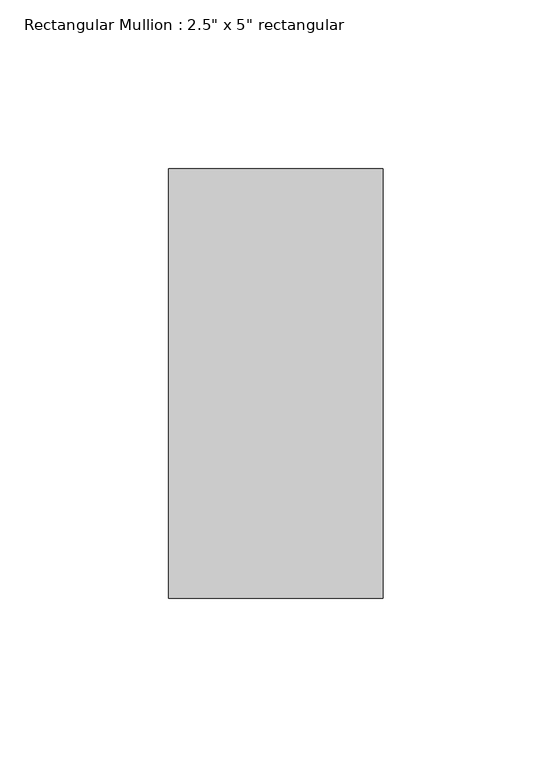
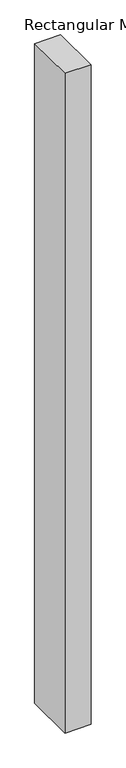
"""IFC4 building model written with IfcOpenShell, lengths in millimetres: member geometry."""

import ifcopenshell
import ifcopenshell.guid

model = None  # the IFC model being written
_history = None  # IfcOwnerHistory: only IFC2X3 demands one
_inside = {}  # id of a spatial element -> (the spatial element, [elements in it])
_under = {}  # id of a project, library or spatial element -> (it, [spatial elements below it])
_declared = {}  # id of a project -> (the project, [libraries it declares])
_typed = {}  # id of a type object -> (the type object, [elements of that type])
_made_of = {}  # id of a material, layer set ... -> (it, [elements and type objects made of it])


def new_model(schema):
    """Start an empty IFC model of exactly this schema.

    Asked for "IFC4X3", IfcOpenShell would pick the latest addendum, in which some entities
    have other attributes; the version numbers below select the first issue.
    IFC2X3 requires an IfcOwnerHistory on every rooted entity: one is made here for all.
    """
    global model, _history
    if schema == "IFC4X3":
        model = ifcopenshell.file(schema_version=(4, 3, 0, 0))
    else:
        model = ifcopenshell.file(schema=schema)
    _inside.clear()
    _under.clear()
    _declared.clear()
    _typed.clear()
    _made_of.clear()
    _history = None
    if model.schema == "IFC2X3":
        org = make("IfcOrganization", Name="unknown")
        user = make(
            "IfcPersonAndOrganization",
            ThePerson=make("IfcPerson", FamilyName="unknown"),
            TheOrganization=org,
        )
        app = make(
            "IfcApplication",
            ApplicationDeveloper=org,
            Version="unknown",
            ApplicationFullName="unknown",
            ApplicationIdentifier="unknown",
        )
        _history = make(
            "IfcOwnerHistory",
            OwningUser=user,
            OwningApplication=app,
            ChangeAction="ADDED",
            CreationDate=0,
        )
    return model


def make(cls, **values):
    """One entity of the class cls with the attributes given. An attribute that is None is left unset."""
    return model.create_entity(
        cls, **{name: value for name, value in values.items() if value is not None}
    )


def rooted(cls, **values):
    """An entity with a GlobalId (a new one), such as an element, a storey or a relation."""
    return make(cls, GlobalId=ifcopenshell.guid.new(), OwnerHistory=_history, **values)


def si_unit(unit_type, name, prefix=None):
    """IfcSIUnit, for example si_unit("LENGTHUNIT", "METRE", prefix="MILLI")."""
    return make("IfcSIUnit", UnitType=unit_type, Prefix=prefix, Name=name)


def assignment(units):
    """IfcUnitAssignment: the units of a project."""
    return None if units is None else make("IfcUnitAssignment", Units=units)


def point(xyz):
    """IfcCartesianPoint."""
    return None if xyz is None else make("IfcCartesianPoint", Coordinates=xyz)


def direction(xyz):
    """IfcDirection."""
    return None if xyz is None else make("IfcDirection", DirectionRatios=xyz)


def frame(location, z_axis=None, x_axis=None):
    """IfcAxis2Placement3D, a coordinate frame: its origin and axes. An axis left out is left unset."""
    return make(
        "IfcAxis2Placement3D",
        Location=point(location),
        Axis=direction(z_axis),
        RefDirection=direction(x_axis),
    )


def origin():
    """The frame at (0, 0, 0) with its axes left unset."""
    return frame((0.0, 0.0, 0.0))


def place(relative_to, where):
    """IfcLocalPlacement: puts the frame where relative to a parent placement (None: the world)."""
    return make(
        "IfcLocalPlacement", PlacementRelTo=relative_to, RelativePlacement=where
    )


def context(
    kind, dimensions, precision=None, world=None, true_north=None, identifier=None
):
    """IfcGeometricRepresentationContext, for example the 3D "Model" context."""
    return make(
        "IfcGeometricRepresentationContext",
        ContextIdentifier=identifier,
        ContextType=kind,
        CoordinateSpaceDimension=dimensions,
        Precision=precision,
        WorldCoordinateSystem=world,
        TrueNorth=true_north,
    )


def project(units=None, contexts=None):
    """IfcProject with its units and contexts."""
    return rooted(
        "IfcProject",
        Name="project",
        RepresentationContexts=contexts,
        UnitsInContext=assignment(units),
    )


def spatial(cls, under=None, at=None, **own):
    """A site, building, storey or space (cls), placed at a placement, below another one or the project."""
    s = rooted(cls, ObjectPlacement=at, **own)
    if under is not None:
        _under.setdefault(under.id(), (under, []))[1].append(s)
    return s


def polyline(points):
    """IfcPolyline through the points."""
    return make("IfcPolyline", Points=[point(p) for p in points])


def outline(outer, holes=None, kind="AREA"):
    """IfcArbitraryClosedProfileDef: a profile drawn as a closed curve; with holes, ...WithVoids."""
    if holes is None:
        return make("IfcArbitraryClosedProfileDef", ProfileType=kind, OuterCurve=outer)
    return make(
        "IfcArbitraryProfileDefWithVoids",
        ProfileType=kind,
        OuterCurve=outer,
        InnerCurves=holes,
    )


def extrude(swept, where, along, depth):
    """IfcExtrudedAreaSolid: the profile swept, set in the frame where, extruded along a direction by depth."""
    return make(
        "IfcExtrudedAreaSolid",
        SweptArea=swept,
        Position=where,
        ExtrudedDirection=direction(along),
        Depth=depth,
    )


def shape(context_of_items, identifier, shape_type, items):
    """IfcShapeRepresentation: the items that make up one representation, for example the "Body"."""
    return make(
        "IfcShapeRepresentation",
        ContextOfItems=context_of_items,
        RepresentationIdentifier=identifier,
        RepresentationType=shape_type,
        Items=items,
    )


def source(mapping_origin, context_of_items, identifier, shape_type, items):
    """IfcRepresentationMap: a shape defined once, which mapped items show again and again."""
    return make(
        "IfcRepresentationMap",
        MappingOrigin=mapping_origin,
        MappedRepresentation=shape(context_of_items, identifier, shape_type, items),
    )


def transform(
    local_origin,
    x_axis=None,
    y_axis=None,
    z_axis=None,
    scale=None,
    scale2=None,
    scale3=None,
    uniform=True,
):
    """IfcCartesianTransformationOperator3D, or its non-uniform kind. x_axis, y_axis, z_axis: its Axis1, 2, 3."""
    if uniform:
        return make(
            "IfcCartesianTransformationOperator3D",
            Axis1=direction(x_axis),
            Axis2=direction(y_axis),
            LocalOrigin=point(local_origin),
            Scale=scale,
            Axis3=direction(z_axis),
        )
    return make(
        "IfcCartesianTransformationOperator3DnonUniform",
        Axis1=direction(x_axis),
        Axis2=direction(y_axis),
        LocalOrigin=point(local_origin),
        Scale=scale,
        Axis3=direction(z_axis),
        Scale2=scale2,
        Scale3=scale3,
    )


def mapped(mapping_source, mapping_target):
    """IfcMappedItem: shows the shape of a source again, moved by a transform."""
    return make(
        "IfcMappedItem", MappingSource=mapping_source, MappingTarget=mapping_target
    )


def made_of(thing, what):
    """Note that an element or type object is made of a material, layer set ...; save() writes the relation."""
    if what is not None:
        _made_of.setdefault(what.id(), (what, []))[1].append(thing)
    return thing


def element(
    cls,
    number,
    at=None,
    inside=None,
    cuts=None,
    type_object=None,
    material=None,
    context=None,
    identifier="Body",
    shape_type=None,
    held_by="IfcProductDefinitionShape",
    body=None,
    shapes=None,
    **own,
):
    """One element of the class cls, such as IfcWall. Its Tag is "e" and its number.

    at: its placement. inside: the storey or other place that contains it. cuts: it is an
    opening in that element (IfcRelVoidsElement). A single representation is given by context,
    identifier, shape_type and body (its items); several are given by shapes. held_by: the class
    of the entity that holds the representations. save() writes the other relations.
    """
    e = rooted(cls, Tag="e%d" % number, ObjectPlacement=at, **own)
    if body is not None:
        shapes = [shape(context, identifier, shape_type, body)]
    if shapes is not None:
        e.Representation = make(held_by, Representations=shapes)
    if inside is not None:
        _inside.setdefault(inside.id(), (inside, []))[1].append(e)
    if cuts is not None:
        rooted(
            "IfcRelVoidsElement", RelatingBuildingElement=cuts, RelatedOpeningElement=e
        )
    if type_object is not None:
        _typed.setdefault(type_object.id(), (type_object, []))[1].append(e)
    return made_of(e, material)


def aggregate(whole, parts):
    """IfcRelAggregates: a whole, such as a stair, and the parts it consists of."""
    return rooted("IfcRelAggregates", RelatingObject=whole, RelatedObjects=parts)


def save(model, path):
    """Write the relations noted so far, then the file.

    IfcRelAggregates (storeys below a building ...), IfcRelContainedInSpatialStructure (elements
    in a storey), IfcRelDefinesByType, IfcRelAssociatesMaterial and IfcRelDeclares: one each for
    every whole, place, type object, material and project.
    """
    for whole, parts in _under.values():
        aggregate(whole, parts)
    for where, things in _inside.values():
        rooted(
            "IfcRelContainedInSpatialStructure",
            RelatedElements=things,
            RelatingStructure=where,
        )
    for kind, things in _typed.values():
        rooted("IfcRelDefinesByType", RelatedObjects=things, RelatingType=kind)
    for what, things in _made_of.values():
        rooted("IfcRelAssociatesMaterial", RelatedObjects=things, RelatingMaterial=what)
    for by, libraries in _declared.values():
        rooted("IfcRelDeclares", RelatingContext=by, RelatedDefinitions=libraries)
    model.write(path)


def member_65e0d2b7(model_context):
    return source(origin(), model_context, "Body", "SweptSolid", [
        extrude(outline(polyline([(0.0, 63.5), (0.0, -63.5), (-63.5, -63.5), (-63.5, 63.5), (0.0, 63.5)])), frame((0.0, 0.0, -1698.2022187), z_axis=(0.0, 0.0, 1.0), x_axis=(1.0, 0.0, 0.0)), (0.0, 0.0, 1.0), 1698.2022187),
    ])


if __name__ == "__main__":
    model = new_model("IFC4")
    model_context = context("Model", 3, world=origin())
    ifc_project = project(units=[si_unit("LENGTHUNIT", "METRE", prefix="MILLI")], contexts=[model_context])
    site = spatial("IfcSite", under=ifc_project)
    building = spatial("IfcBuilding", under=site)
    placement = place(None, origin())
    member_shape = member_65e0d2b7(model_context)
    element("IfcMember", 1, ObjectType="Rectangular Mullion : 2.5\" x 5\" rectangular", at=placement, inside=building, context=model_context, shape_type="MappedRepresentation", body=[
        mapped(member_shape, transform((0.0, 0.0, 0.0), x_axis=(1.0, 0.0, 0.0), y_axis=(0.0, 1.0, 0.0), z_axis=(0.0, 0.0, 1.0))),
    ])
    save(model, "model.ifc")
